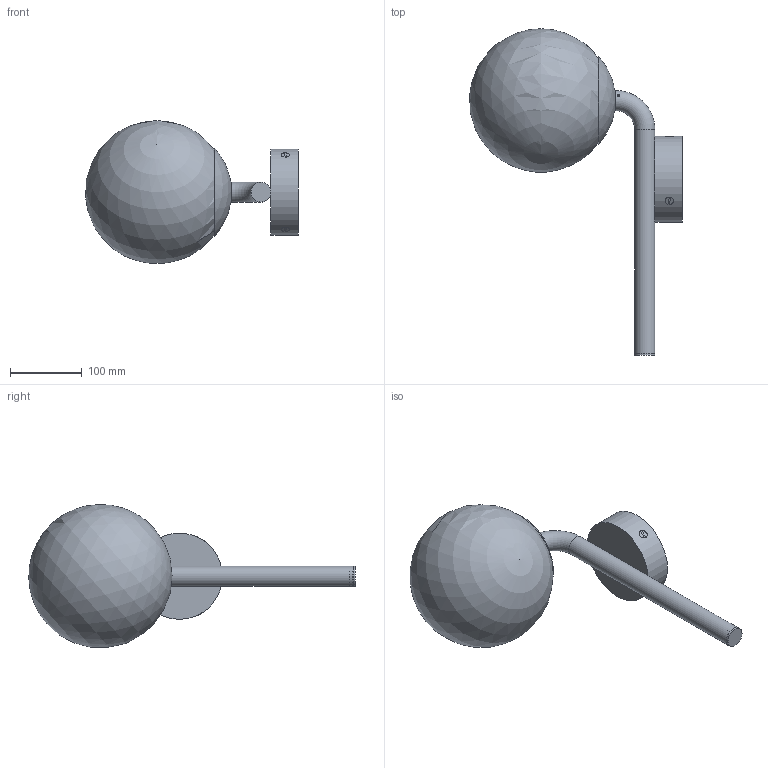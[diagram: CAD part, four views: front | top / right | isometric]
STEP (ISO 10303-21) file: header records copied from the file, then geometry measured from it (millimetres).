
FILE_DESCRIPTION(/* description */ (''),/* implementation_level */ '2;1');
FILE_NAME(/* name */ 'B736 Tubular sconce 2.stp',/* time_stamp */ '2025-05-09T10:32:26+02:00',/* author */ ('Lukasz'),/* organization */ (''),/* preprocessor_version */ 'ST-DEVELOPER v20.1',/* originating_system */ 'Autodesk Inventor 2026',/* authorisation */ '');
FILE_SCHEMA (('AUTOMOTIVE_DESIGN { 1 0 10303 214 3 1 1 }'));
Length unit declared in the file: millimetre
Products named in the file (1): B736 Tubular sconce 2 - katalog - jako część
Bounding box: 296.12 x 454.96 x 199.25 mm (x, y, z)
Volume: 4852292 mm3; surface area: 249787.3 mm2
Topology: 15 solids, 15 shells, 153 faces, 333 edges, 212 vertices
Faces by surface type: plane 83, cylinder 45, cone 13, bspline 6, torus 3, sphere 3
Full cylindrical faces by diameter (mm): 3 x2, 4 x2, 6 x3, 7 x1, 7.6 x2, 9 x1, 16 x2, 24 x1, 26 x1, 28 x2, 120 x1
Entity records: 5247 total; most frequent: CARTESIAN_POINT 1592, DIRECTION 753, ORIENTED_EDGE 658, EDGE_CURVE 329, AXIS2_PLACEMENT_3D 296, VERTEX_POINT 212, STYLED_ITEM 168, LINE 161
